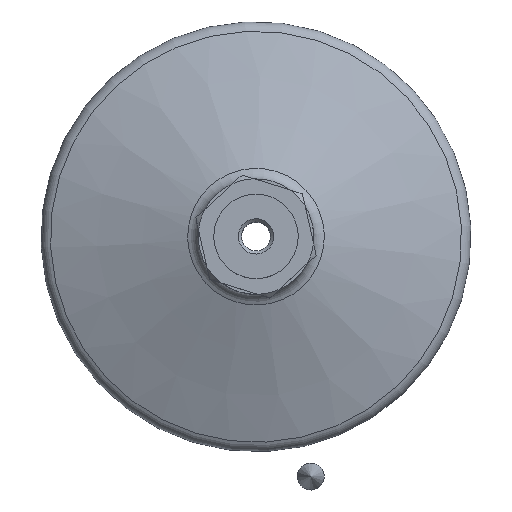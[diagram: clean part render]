
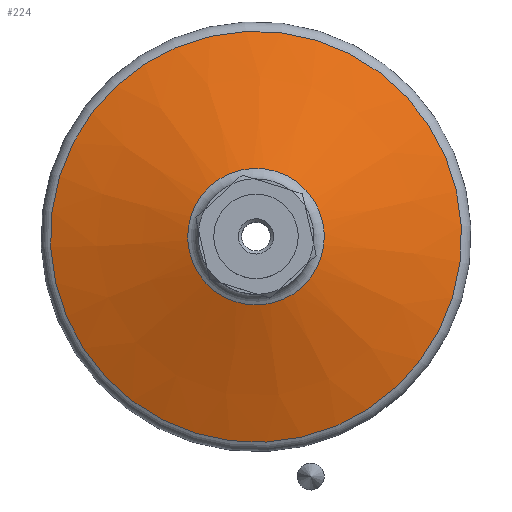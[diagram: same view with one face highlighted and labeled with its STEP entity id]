
A CAD part, top view. The second image highlights one B-rep face of the part: STEP entity #224.
In plain terms, the highlighted conical face has half-angle 69.99 degrees and reference radius 21.332 mm.
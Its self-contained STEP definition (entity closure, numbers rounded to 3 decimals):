
#224=ADVANCED_FACE('',(#453,#454),#455,.T.);
#453=FACE_BOUND('',#684,.T.);
#454=FACE_OUTER_BOUND('',#685,.T.);
#455=CONICAL_SURFACE('',#686,21.332,1.222);
#684=EDGE_LOOP('',(#1081));
#685=EDGE_LOOP('',(#1082));
#686=AXIS2_PLACEMENT_3D('',#1083,#1084,#1085);
#1081=ORIENTED_EDGE('',*,*,#1288,.T.);
#1082=ORIENTED_EDGE('',*,*,#1291,.F.);
#1083=CARTESIAN_POINT('',(0.0,0.,20.));
#1084=DIRECTION('',(0.0,0.,-1.0));
#1085=DIRECTION('',(1.0,0.0,0.0));
#1288=EDGE_CURVE('',#1503,#1503,#1504,.T.);
#1291=EDGE_CURVE('',#1508,#1508,#1509,.T.);
#1503=VERTEX_POINT('',#1985);
#1504=CIRCLE('',#1986,10.644);
#1508=VERTEX_POINT('',#1990);
#1509=CIRCLE('',#1991,32.02);
#1985=CARTESIAN_POINT('',(0.0,10.644,23.892));
#1986=AXIS2_PLACEMENT_3D('',#2155,#2156,#2157);
#1990=CARTESIAN_POINT('',(0.0,32.02,16.108));
#1991=AXIS2_PLACEMENT_3D('',#2161,#2162,#2163);
#2155=CARTESIAN_POINT('',(0.0,0.,23.892));
#2156=DIRECTION('',(0.0,0.,-1.0));
#2157=DIRECTION('',(0.0,1.0,0.));
#2161=CARTESIAN_POINT('',(0.0,0.,16.108));
#2162=DIRECTION('',(0.0,0.,-1.0));
#2163=DIRECTION('',(0.0,1.0,0.));
